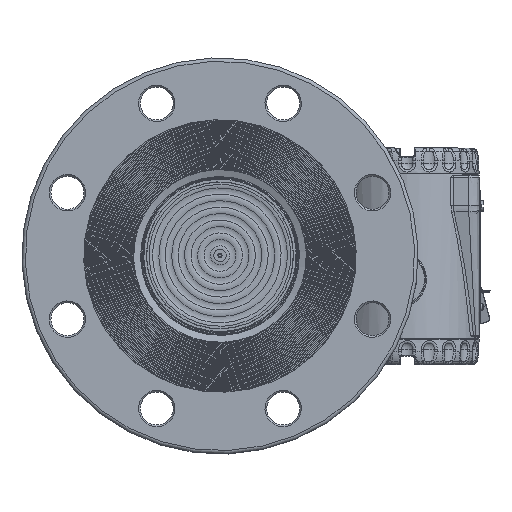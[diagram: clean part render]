
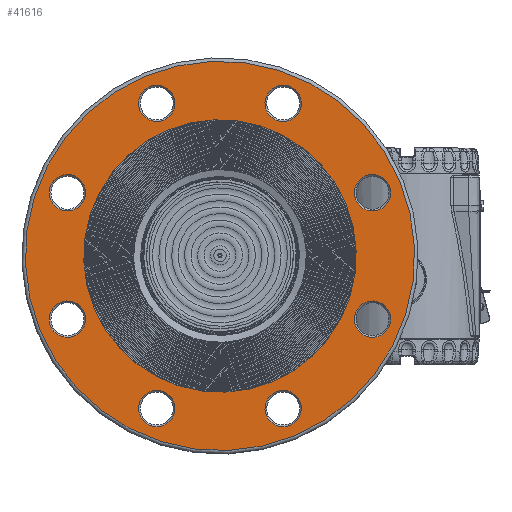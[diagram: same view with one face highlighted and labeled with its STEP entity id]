
A CAD part, top view. The second image highlights one B-rep face of the part: STEP entity #41616.
In plain terms, the highlighted planar face has unit normal (0, 0, 1).
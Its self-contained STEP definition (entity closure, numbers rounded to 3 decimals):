
#695=FACE_BOUND('',#6939,.T.);
#696=FACE_BOUND('',#6940,.T.);
#697=FACE_BOUND('',#6941,.T.);
#698=FACE_BOUND('',#6942,.T.);
#699=FACE_BOUND('',#6943,.T.);
#700=FACE_BOUND('',#6944,.T.);
#701=FACE_BOUND('',#6945,.T.);
#702=FACE_BOUND('',#6946,.T.);
#703=FACE_BOUND('',#6947,.T.);
#2713=PLANE('',#46302);
#4145=FACE_OUTER_BOUND('',#6938,.T.);
#6938=EDGE_LOOP('',(#31840));
#6939=EDGE_LOOP('',(#31841));
#6940=EDGE_LOOP('',(#31842));
#6941=EDGE_LOOP('',(#31843));
#6942=EDGE_LOOP('',(#31844));
#6943=EDGE_LOOP('',(#31845));
#6944=EDGE_LOOP('',(#31846));
#6945=EDGE_LOOP('',(#31847));
#6946=EDGE_LOOP('',(#31848));
#6947=EDGE_LOOP('',(#31849));
#13778=CIRCLE('',#46301,112.3);
#13779=CIRCLE('',#46303,10.5);
#13780=CIRCLE('',#46304,10.5);
#13781=CIRCLE('',#46305,10.5);
#13782=CIRCLE('',#46306,10.5);
#13783=CIRCLE('',#46307,78.6);
#13784=CIRCLE('',#46308,10.5);
#13785=CIRCLE('',#46309,10.5);
#13786=CIRCLE('',#46310,10.5);
#13787=CIRCLE('',#46311,10.5);
#18309=VERTEX_POINT('',#73689);
#18310=VERTEX_POINT('',#73693);
#18311=VERTEX_POINT('',#73695);
#18312=VERTEX_POINT('',#73697);
#18313=VERTEX_POINT('',#73699);
#18314=VERTEX_POINT('',#73701);
#18315=VERTEX_POINT('',#73703);
#18316=VERTEX_POINT('',#73705);
#18317=VERTEX_POINT('',#73707);
#18318=VERTEX_POINT('',#73709);
#23112=EDGE_CURVE('',#18309,#18309,#13778,.T.);
#23113=EDGE_CURVE('',#18310,#18310,#13779,.T.);
#23114=EDGE_CURVE('',#18311,#18311,#13780,.T.);
#23115=EDGE_CURVE('',#18312,#18312,#13781,.T.);
#23116=EDGE_CURVE('',#18313,#18313,#13782,.T.);
#23117=EDGE_CURVE('',#18314,#18314,#13783,.T.);
#23118=EDGE_CURVE('',#18315,#18315,#13784,.T.);
#23119=EDGE_CURVE('',#18316,#18316,#13785,.T.);
#23120=EDGE_CURVE('',#18317,#18317,#13786,.T.);
#23121=EDGE_CURVE('',#18318,#18318,#13787,.T.);
#31840=ORIENTED_EDGE('',*,*,#23112,.F.);
#31841=ORIENTED_EDGE('',*,*,#23113,.F.);
#31842=ORIENTED_EDGE('',*,*,#23114,.F.);
#31843=ORIENTED_EDGE('',*,*,#23115,.F.);
#31844=ORIENTED_EDGE('',*,*,#23116,.F.);
#31845=ORIENTED_EDGE('',*,*,#23117,.F.);
#31846=ORIENTED_EDGE('',*,*,#23118,.F.);
#31847=ORIENTED_EDGE('',*,*,#23119,.F.);
#31848=ORIENTED_EDGE('',*,*,#23120,.F.);
#31849=ORIENTED_EDGE('',*,*,#23121,.F.);
#41616=ADVANCED_FACE('',(#4145,#695,#696,#697,#698,#699,#700,#701,#702,
#703),#2713,.T.);
#46301=AXIS2_PLACEMENT_3D('',#73691,#54648,#54649);
#46302=AXIS2_PLACEMENT_3D('',#73692,#54650,#54651);
#46303=AXIS2_PLACEMENT_3D('',#73694,#54652,#54653);
#46304=AXIS2_PLACEMENT_3D('',#73696,#54654,#54655);
#46305=AXIS2_PLACEMENT_3D('',#73698,#54656,#54657);
#46306=AXIS2_PLACEMENT_3D('',#73700,#54658,#54659);
#46307=AXIS2_PLACEMENT_3D('',#73702,#54660,#54661);
#46308=AXIS2_PLACEMENT_3D('',#73704,#54662,#54663);
#46309=AXIS2_PLACEMENT_3D('',#73706,#54664,#54665);
#46310=AXIS2_PLACEMENT_3D('',#73708,#54666,#54667);
#46311=AXIS2_PLACEMENT_3D('',#73710,#54668,#54669);
#54648=DIRECTION('center_axis',(0.,0.,-1.));
#54649=DIRECTION('ref_axis',(-1.,0.,0.));
#54650=DIRECTION('center_axis',(0.,0.,1.));
#54651=DIRECTION('ref_axis',(1.,0.,0.));
#54652=DIRECTION('center_axis',(0.,0.,1.));
#54653=DIRECTION('ref_axis',(-0.707,0.707,0.));
#54654=DIRECTION('center_axis',(0.,0.,1.));
#54655=DIRECTION('ref_axis',(0.707,0.707,0.));
#54656=DIRECTION('center_axis',(0.,0.,1.));
#54657=DIRECTION('ref_axis',(-0.707,-0.707,0.));
#54658=DIRECTION('center_axis',(0.,0.,1.));
#54659=DIRECTION('ref_axis',(0.,-1.,0.));
#54660=DIRECTION('center_axis',(0.,0.,1.));
#54661=DIRECTION('ref_axis',(-1.,0.,0.));
#54662=DIRECTION('center_axis',(0.,0.,1.));
#54663=DIRECTION('ref_axis',(0.707,-0.707,0.));
#54664=DIRECTION('center_axis',(0.,0.,1.));
#54665=DIRECTION('ref_axis',(-1.,0.,0.));
#54666=DIRECTION('center_axis',(0.,0.,1.));
#54667=DIRECTION('ref_axis',(1.,0.,0.));
#54668=DIRECTION('center_axis',(0.,0.,1.));
#54669=DIRECTION('ref_axis',(0.,1.,0.));
#73689=CARTESIAN_POINT('',(112.3,0.,22.3));
#73691=CARTESIAN_POINT('Origin',(0.,0.,22.3));
#73692=CARTESIAN_POINT('Origin',(0.,0.,22.3));
#73693=CARTESIAN_POINT('',(74.777,59.927,22.3));
#73694=CARTESIAN_POINT('Origin',(67.352,67.352,22.3));
#73695=CARTESIAN_POINT('',(59.927,-74.777,22.3));
#73696=CARTESIAN_POINT('Origin',(67.352,-67.352,22.3));
#73697=CARTESIAN_POINT('',(-59.927,74.777,22.3));
#73698=CARTESIAN_POINT('Origin',(-67.352,67.352,22.3));
#73699=CARTESIAN_POINT('',(-95.25,10.5,22.3));
#73700=CARTESIAN_POINT('Origin',(-95.25,0.,22.3));
#73701=CARTESIAN_POINT('',(78.6,0.,22.3));
#73702=CARTESIAN_POINT('Origin',(0.,0.,22.3));
#73703=CARTESIAN_POINT('',(-74.777,-59.927,22.3));
#73704=CARTESIAN_POINT('Origin',(-67.352,-67.352,22.3));
#73705=CARTESIAN_POINT('',(10.5,95.25,22.3));
#73706=CARTESIAN_POINT('Origin',(0.,95.25,22.3));
#73707=CARTESIAN_POINT('',(-10.5,-95.25,22.3));
#73708=CARTESIAN_POINT('Origin',(0.,-95.25,22.3));
#73709=CARTESIAN_POINT('',(95.25,-10.5,22.3));
#73710=CARTESIAN_POINT('Origin',(95.25,0.,22.3));
